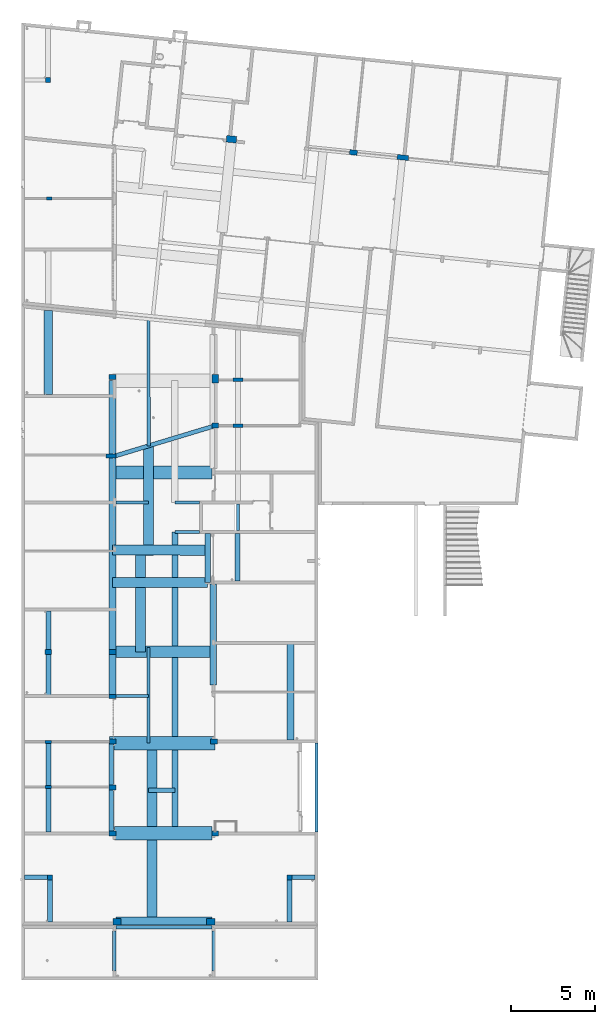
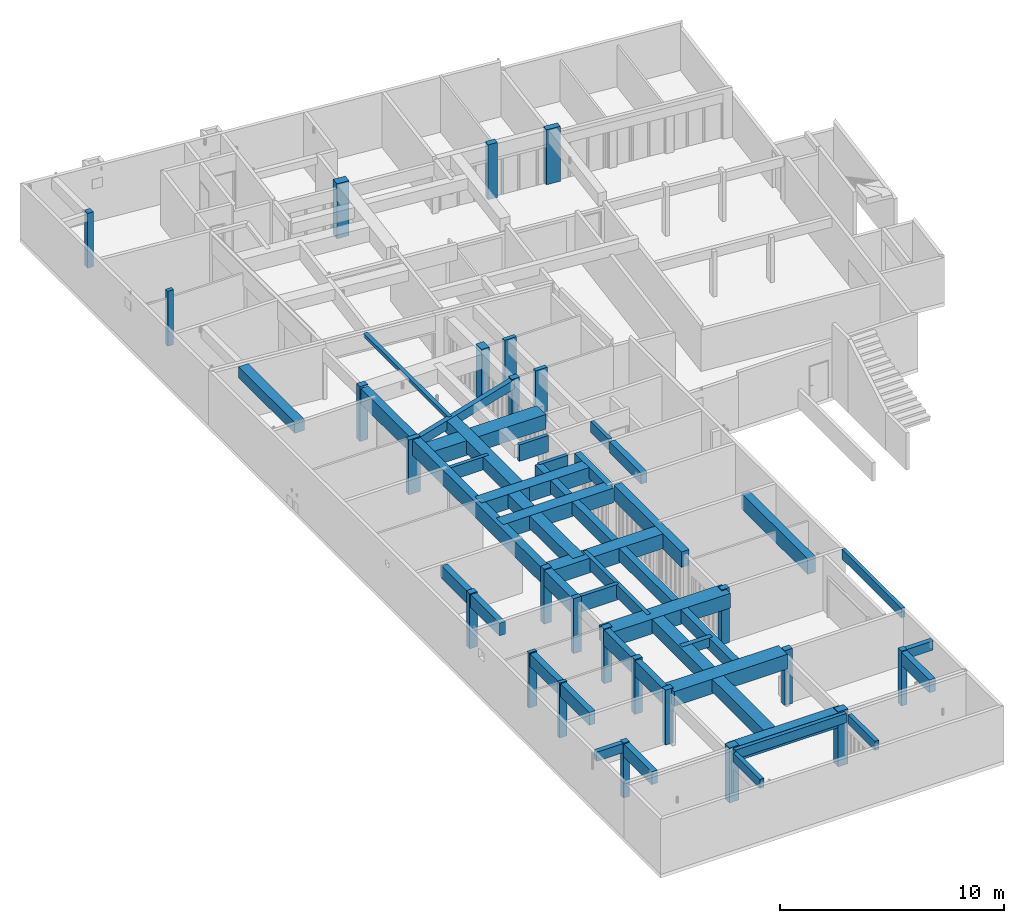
# One storey, part 1 of 41: 37 beams, 25 columns.
"""IFC2X3 building model written with IfcOpenShell, lengths in millimetres."""

from ifc_helpers import new_model, entity, si_unit, converted_unit, derived_unit, money_unit, direction, frame, frame_2d, origin_with_axes, origin_2d_with_axis, place, context, subcontext, project, spatial, rectangle, extrude, material, type_object, element, save


model = new_model("IFC2X3")

# Units and contexts
model_context = context("Model", 3, precision=0.01, world=origin_with_axes(), true_north=direction((0.0, 1.0)))
body_context = subcontext(model_context, "Body", "Model", "MODEL_VIEW")
ifc_project = project(units=[si_unit("LENGTHUNIT", "METRE", prefix="MILLI"), si_unit("AREAUNIT", "SQUARE_METRE"), si_unit("VOLUMEUNIT", "CUBIC_METRE"), converted_unit("PLANEANGLEUNIT", "DEGREE", entity("IfcPlaneAngleMeasure", 0.0174532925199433), si_unit("PLANEANGLEUNIT", "RADIAN"), dimensions=[0, 0, 0, 0, 0, 0, 0]), money_unit("USD"), converted_unit("TIMEUNIT", "Year", entity("IfcTimeMeasure", 31557600.0), si_unit("TIMEUNIT", "SECOND"), dimensions=[0, 0, 1, 0, 0, 0, 0]), si_unit("MASSUNIT", "GRAM", prefix="KILO"), si_unit("THERMODYNAMICTEMPERATUREUNIT", "DEGREE_CELSIUS"), si_unit("LUMINOUSINTENSITYUNIT", "LUMEN"), si_unit("ENERGYUNIT", "JOULE", prefix="MEGA"), derived_unit("THERMALCONDUCTANCEUNIT", [(si_unit("POWERUNIT", "WATT"), 1), (si_unit("LENGTHUNIT", "METRE"), -1), (si_unit("THERMODYNAMICTEMPERATUREUNIT", "KELVIN"), -1)]), derived_unit("SPECIFICHEATCAPACITYUNIT", [(si_unit("ENERGYUNIT", "JOULE"), 1), (si_unit("MASSUNIT", "GRAM", prefix="KILO"), -1), (si_unit("THERMODYNAMICTEMPERATUREUNIT", "KELVIN"), -1)]), derived_unit("MASSDENSITYUNIT", [(si_unit("MASSUNIT", "GRAM", prefix="KILO"), 1), (si_unit("VOLUMEUNIT", "CUBIC_METRE"), -1)])], contexts=[model_context])

# Site, building, storey
site_placement = place(None, origin_with_axes())
site = spatial("IfcSite", under=ifc_project, at=site_placement, Name="Site", CompositionType="ELEMENT")
building_placement = place(site_placement, origin_with_axes())
building = spatial("IfcBuilding", under=site, at=building_placement, Name="Bâtiment", CompositionType="ELEMENT")
storey_placement = place(building_placement, origin_with_axes())
storey = spatial("IfcBuildingStorey", under=building, at=storey_placement, Name="sousol", CompositionType="ELEMENT", Elevation=0.0)

# Columns
ifc_material_1 = material(Name="Briques 314940890")
column_type_1 = type_object("IfcColumnType", Name="Briques 314940890 400 x 300", PredefinedType="NOTDEFINED")
column_1_placement = place(storey_placement, frame((2222064.23334483, -625032.7456712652, 0.0), z_axis=(0.0, 0.0, 1.0), x_axis=(1.0, 0.0, 0.0)))
element("IfcColumn", 1, at=column_1_placement, inside=storey, type_object=column_type_1, material=ifc_material_1, Name="Pilier-021", context=body_context, shape_type="SweptSolid", body=[
    extrude(rectangle(XDim=400.0, YDim=300.0, at=origin_2d_with_axis()), origin_with_axes(), (0.0, 0.0, 1.0), 3000.0),
])
column_2_placement = place(storey_placement, frame((2222064.23334483, -649588.1723563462, 0.0), z_axis=(0.0, 0.0, 1.0), x_axis=(1.0, 0.0, 0.0)))
element("IfcColumn", 2, at=column_2_placement, inside=storey, type_object=column_type_1, material=ifc_material_1, Name="Pilier-021", context=body_context, shape_type="SweptSolid", body=[
    extrude(rectangle(XDim=400.0, YDim=300.0, at=origin_2d_with_axis()), frame((0.0, 0.0, 0.0), z_axis=(0.0, 0.0, -1.0), x_axis=(-1.0, 0.0, 0.0)), (0.0, 0.0, -1.0), 3000.0),
])
for number, where, z_axis, x_axis, name in (
    (3, (2228214.233344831, -627942.7456712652, 0.0), (0.0, 0.0, 1.0), (1.0, 0.0, 0.0), "Pilier-021"),
    (4, (2228134.757189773, -646830.1429314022, 0.0), (0.0, 0.0, 1.0), (1.0, 0.0, 0.0), "Pilier-021"),
):
    element("IfcColumn", number, at=place(storey_placement, frame(where, z_axis=z_axis, x_axis=x_axis)), inside=storey, type_object=column_type_1, material=ifc_material_1, Name=name, context=body_context, shape_type="SweptSolid", body=[
        extrude(rectangle(XDim=400.0, YDim=300.0, at=origin_2d_with_axis()), origin_with_axes(), (0.0, 0.0, 1.0), 3000.0),
    ])
column_3_placement = place(storey_placement, frame((2222064.23334483, -652340.5534607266, 0.0), z_axis=(0.0, 0.0, 1.0), x_axis=(1.0, 0.0, 0.0)))
element("IfcColumn", 5, at=column_3_placement, inside=storey, type_object=column_type_1, material=ifc_material_1, Name="Pilier-021", context=body_context, shape_type="SweptSolid", body=[
    extrude(rectangle(XDim=400.0, YDim=300.0, at=origin_2d_with_axis()), frame((0.0, 0.0, 0.0), z_axis=(0.0, 0.0, -1.0), x_axis=(-1.0, 0.0, 0.0)), (0.0, 0.0, -1.0), 3000.0),
])
column_4_placement = place(storey_placement, frame((2228214.233329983, -652340.5534607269, 0.0), z_axis=(0.0, 0.0, 1.0), x_axis=(1.0, 0.0, 0.0)))
element("IfcColumn", 6, at=column_4_placement, inside=storey, type_object=column_type_1, material=ifc_material_1, Name="Pilier-021", context=body_context, shape_type="SweptSolid", body=[
    extrude(rectangle(XDim=400.0, YDim=300.0, at=origin_2d_with_axis()), origin_with_axes(), (0.0, 0.0, 1.0), 3000.0),
])
column_5_placement = place(storey_placement, frame((2222075.995055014, -646830.1429314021, 0.0), z_axis=(0.0, 0.0, 1.0), x_axis=(1.0, 0.0, 0.0)))
element("IfcColumn", 7, at=column_5_placement, inside=storey, type_object=column_type_1, material=ifc_material_1, Name="Pilier-021", context=body_context, shape_type="SweptSolid", body=[
    extrude(rectangle(XDim=400.0, YDim=300.0, at=origin_2d_with_axis()), frame((0.0, 0.0, 0.0), z_axis=(0.0, 0.0, -1.0), x_axis=(-1.0, 0.0, 0.0)), (0.0, 0.0, -1.0), 3000.0),
])
for number, where, z_axis, x_axis, name in (
    (8, (2218226.199228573, -641468.6041764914, 0.0), (0.0, 0.0, 1.0), (1.0, 0.0, 0.0), "Pilier-021"),
    (9, (2222064.233344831, -641468.6041764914, 0.0), (0.0, 0.0, 1.0), (1.0, 0.0, 0.0), "Pilier-021"),
):
    element("IfcColumn", number, at=place(storey_placement, frame(where, z_axis=z_axis, x_axis=x_axis)), inside=storey, type_object=column_type_1, material=ifc_material_1, Name=name, context=body_context, shape_type="SweptSolid", body=[
        extrude(rectangle(XDim=400.0, YDim=300.0, at=origin_2d_with_axis()), origin_with_axes(), (0.0, 0.0, 1.0), 3000.0),
    ])
column_type_2 = type_object("IfcColumnType", Name="Briques 314940890 680 x 300", PredefinedType="NOTDEFINED")
column_6_placement = place(storey_placement, frame((2239435.25860121, -611899.5777297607, 0.0), z_axis=(0.0, 0.0, 1.0), x_axis=(0.9948759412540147, -0.101103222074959, 0.0)))
element("IfcColumn", 10, at=column_6_placement, inside=storey, type_object=column_type_2, material=ifc_material_1, Name="Pilier-021", context=body_context, shape_type="SweptSolid", body=[
    extrude(rectangle(XDim=680.0, YDim=300.0, at=origin_2d_with_axis()), origin_with_axes(), (0.0, 0.0, 1.0), 3000.0),
])
column_type_3 = type_object("IfcColumnType", Name="Briques 314940890 600 x 400", PredefinedType="NOTDEFINED")
column_7_placement = place(storey_placement, frame((2229184.076988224, -610807.5546481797, 0.0), z_axis=(0.0, 0.0, 1.0), x_axis=(0.9948759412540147, -0.101103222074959, 0.0)))
element("IfcColumn", 11, at=column_7_placement, inside=storey, type_object=column_type_3, material=ifc_material_1, Name="Pilier-021", context=body_context, shape_type="SweptSolid", body=[
    extrude(rectangle(XDim=600.0, YDim=400.0, at=origin_2d_with_axis()), origin_with_axes(), (0.0, 0.0, 1.0), 3000.0),
])
column_type_4 = type_object("IfcColumnType", Name="Briques 314940890 460 x 300", PredefinedType="NOTDEFINED")
column_8_placement = place(storey_placement, frame((2236480.477055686, -611599.3011601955, 0.0), z_axis=(0.0, 0.0, 1.0), x_axis=(0.9948759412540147, -0.101103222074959, 0.0)))
element("IfcColumn", 12, at=column_8_placement, inside=storey, type_object=column_type_4, material=ifc_material_1, Name="Pilier-021", context=body_context, shape_type="SweptSolid", body=[
    extrude(rectangle(XDim=460.0, YDim=300.0, at=origin_2d_with_axis()), origin_with_axes(), (0.0, 0.0, 1.0), 3000.0),
])
column_type_5 = type_object("IfcColumnType", Name="Briques 314940890 600 x 200", PredefinedType="NOTDEFINED")
for number, where, z_axis, x_axis, name in (
    (13, (2229570.307562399, -625193.4880064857, 0.0), (0.0, 0.0, 1.0), (1.0, 0.0, 0.0), "Pilier-021"),
    (14, (2229570.307562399, -627946.6771579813, 0.0), (0.0, 0.0, 1.0), (1.0, 0.0, 0.0), "Pilier-021"),
):
    element("IfcColumn", number, at=place(storey_placement, frame(where, z_axis=z_axis, x_axis=x_axis)), inside=storey, type_object=column_type_5, material=ifc_material_1, Name=name, context=body_context, shape_type="SweptSolid", body=[
        extrude(rectangle(XDim=600.0, YDim=200.0, at=origin_2d_with_axis()), origin_with_axes(), (0.0, 0.0, 1.0), 3000.0),
    ])
column_type_6 = type_object("IfcColumnType", Name="Briques 314940890 300 x 200", PredefinedType="NOTDEFINED")
column_9_placement = place(storey_placement, frame((2218284.233344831, -614352.8894231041, 0.0), z_axis=(0.0, 0.0, 1.0), x_axis=(1.0, 0.0, 0.0)))
element("IfcColumn", 15, at=column_9_placement, inside=storey, type_object=column_type_6, material=ifc_material_1, Name="Pilier-021", context=body_context, shape_type="SweptSolid", body=[
    extrude(rectangle(XDim=300.0, YDim=200.0, at=origin_2d_with_axis()), origin_with_axes(), (0.0, 0.0, 1.0), 3000.0),
])
column_type_7 = type_object("IfcColumnType", Name="Briques 314940890 400 x 510", PredefinedType="NOTDEFINED")
column_10_placement = place(storey_placement, frame((2228214.233344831, -625137.7456712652, 0.0), z_axis=(0.0, 0.0, 1.0), x_axis=(1.0, 0.0, 0.0)))
element("IfcColumn", 16, at=column_10_placement, inside=storey, type_object=column_type_7, material=ifc_material_1, Name="Pilier-021", context=body_context, shape_type="SweptSolid", body=[
    extrude(rectangle(XDim=400.0, YDim=510.0, at=origin_2d_with_axis()), origin_with_axes(), (0.0, 0.0, 1.0), 3000.0),
])
column_type_8 = type_object("IfcColumnType", Name="Briques 314940890 400 x 250", PredefinedType="NOTDEFINED")
column_11_placement = place(storey_placement, frame((2222064.23334483, -644141.376487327, 0.0), z_axis=(0.0, 0.0, 1.0), x_axis=(1.0, 0.0, 0.0)))
element("IfcColumn", 17, at=column_11_placement, inside=storey, type_object=column_type_8, material=ifc_material_1, Name="Pilier-021", context=body_context, shape_type="SweptSolid", body=[
    extrude(rectangle(XDim=400.0, YDim=250.0, at=origin_2d_with_axis()), frame((0.0, 0.0, 0.0), z_axis=(0.0, 0.0, -1.0), x_axis=(-1.0, 0.0, 0.0)), (0.0, 0.0, -1.0), 3000.0),
])
column_type_9 = type_object("IfcColumnType", Name="Briques 314940890 500 x 400", PredefinedType="NOTDEFINED")
column_12_placement = place(storey_placement, frame((2222334.305650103, -657618.3230769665, 0.0), z_axis=(0.0, 0.0, 1.0), x_axis=(1.0, 0.0, 0.0)))
element("IfcColumn", 18, at=column_12_placement, inside=storey, type_object=column_type_9, material=ifc_material_1, Name="Pilier-021", context=body_context, shape_type="SweptSolid", body=[
    extrude(rectangle(XDim=500.0, YDim=400.0, at=origin_2d_with_axis()), frame((0.0, 0.0, 0.0), z_axis=(0.0, 0.0, -1.0), x_axis=(-1.0, 0.0, 0.0)), (0.0, 0.0, -1.0), 3000.0),
])
column_13_placement = place(storey_placement, frame((2227944.233329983, -657618.3230769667, 0.0), z_axis=(0.0, 0.0, 1.0), x_axis=(1.0, 0.0, 0.0)))
element("IfcColumn", 19, at=column_13_placement, inside=storey, type_object=column_type_9, material=ifc_material_1, Name="Pilier-021", context=body_context, shape_type="SweptSolid", body=[
    extrude(rectangle(XDim=500.0, YDim=400.0, at=origin_2d_with_axis()), origin_with_axes(), (0.0, 0.0, 1.0), 3000.0),
])
column_type_10 = type_object("IfcColumnType", Name="Briques 314940890 600 x 250", PredefinedType="NOTDEFINED")
column_14_placement = place(storey_placement, frame((2221964.233344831, -629749.4502307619, 0.0), z_axis=(0.0, 0.0, 1.0), x_axis=(1.0, 0.0, 0.0)))
element("IfcColumn", 20, at=column_14_placement, inside=storey, type_object=column_type_10, material=ifc_material_1, Name="Pilier-021", context=body_context, shape_type="SweptSolid", body=[
    extrude(rectangle(XDim=600.0, YDim=250.0, at=origin_2d_with_axis()), frame((0.0, 0.0, 0.0), z_axis=(0.0, 0.0, -1.0), x_axis=(-1.0, 0.0, 0.0)), (0.0, 0.0, -1.0), 3000.0),
])
column_type_11 = type_object("IfcColumnType", Name="Briques 314940890 300 x 300", PredefinedType="NOTDEFINED")
column_15_placement = place(storey_placement, frame((2232656.658098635, -654976.5243656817, 0.0), z_axis=(0.0, 0.0, 1.0), x_axis=(1.0, 0.0, 0.0)))
element("IfcColumn", 21, at=column_15_placement, inside=storey, type_object=column_type_11, material=ifc_material_1, Name="Pilier-021", context=body_context, shape_type="SweptSolid", body=[
    extrude(rectangle(XDim=300.0, YDim=300.0, at=origin_2d_with_axis()), frame((0.0, 0.0, 0.0), z_axis=(0.0, 0.0, -1.0), x_axis=(-1.0, 0.0, 0.0)), (0.0, 0.0, -1.0), 3000.0),
])
for number, where, z_axis, x_axis, name in (
    (22, (2218327.823438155, -654976.5243656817, 0.0), (0.0, 0.0, 1.0), (1.0, 0.0, 0.0), "Pilier-021"),
    (23, (2218220.465206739, -607254.8624668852, 0.0), (0.0, 0.0, 1.0), (1.0, 0.0, 0.0), "Pilier-021"),
):
    element("IfcColumn", number, at=place(storey_placement, frame(where, z_axis=z_axis, x_axis=x_axis)), inside=storey, type_object=column_type_11, material=ifc_material_1, Name=name, context=body_context, shape_type="SweptSolid", body=[
        extrude(rectangle(XDim=300.0, YDim=300.0, at=origin_2d_with_axis()), origin_with_axes(), (0.0, 0.0, 1.0), 3000.0),
    ])
column_type_12 = type_object("IfcColumnType", Name="Briques 314940890 400 x 180", PredefinedType="NOTDEFINED")
for number, where, z_axis, x_axis, name in (
    (24, (2218226.199228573, -649552.9042430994, 0.0), (0.0, 0.0, 1.0), (1.0, 0.0, 0.0), "Pilier-021"),
    (25, (2218226.199228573, -646849.2671070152, 0.0), (0.0, 0.0, 1.0), (1.0, 0.0, 0.0), "Pilier-021"),
):
    element("IfcColumn", number, at=place(storey_placement, frame(where, z_axis=z_axis, x_axis=x_axis)), inside=storey, type_object=column_type_12, material=ifc_material_1, Name=name, context=body_context, shape_type="SweptSolid", body=[
        extrude(rectangle(XDim=400.0, YDim=180.0, at=origin_2d_with_axis()), origin_with_axes(), (0.0, 0.0, 1.0), 3000.0),
    ])

# Beams
ifc_material_2 = material(Name="Bloc béton 3409626266")
beam_type_1 = type_object("IfcBeamType", Name="Bloc béton 3409626266 180 x 523", PredefinedType="NOTDEFINED")
beam_1_placement = place(storey_placement, frame((2234266.641343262, -652232.6820620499, 3000.0), z_axis=(0.0, 0.0, 1.0), x_axis=(1.0, 0.0, 0.0)))
element("IfcBeam", 26, at=beam_1_placement, inside=storey, type_object=beam_type_1, material=ifc_material_2, Name="Poutre-012", context=body_context, shape_type="SweptSolid", body=[
    extrude(rectangle(XDim=523.1198403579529, YDim=180.0, at=frame_2d((-261.5599201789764, 0.0), x_axis=(1.0, 0.0))), frame((0.0, 0.0, 0.0), z_axis=(0.0, 1.0, 0.0), x_axis=(0.0, 0.0, 1.0)), (0.0, 0.0, 1.0), 5313.920350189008),
])
ifc_material_3 = material(Name="Parpaing 2676271321")
beam_type_2 = type_object("IfcBeamType", Name="Parpaing 2676271321 600 x 700", PredefinedType="NOTDEFINED")
beam_2_placement = place(storey_placement, frame((2224432.390550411, -646530.1429314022, 2950.0), z_axis=(0.0, 0.0, 1.0), x_axis=(-1.0, 0.0, 0.0)))
element("IfcBeam", 27, at=beam_2_placement, inside=storey, type_object=beam_type_2, material=ifc_material_3, Name="Poutre-012", context=body_context, shape_type="SweptSolid", body=[
    extrude(rectangle(XDim=700.0, YDim=600.0, at=frame_2d((-350.0, 0.0), x_axis=(1.0, 0.0))), frame((0.0, 0.0, 0.0), z_axis=(0.0, 1.0, 0.0), x_axis=(0.0, 0.0, 1.0)), (0.0, 0.0, 1.0), 11038.18014556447),
])
beam_3_placement = place(storey_placement, frame((2223732.400116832, -635389.2303549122, 2950.0), z_axis=(0.0, 0.0, 1.0), x_axis=(-1.0, 0.0, 0.0)))
element("IfcBeam", 28, at=beam_3_placement, inside=storey, type_object=beam_type_2, material=ifc_material_3, Name="Poutre-012", context=body_context, shape_type="SweptSolid", body=[
    extrude(rectangle(XDim=700.0, YDim=600.0, at=frame_2d((-350.0, 0.0), x_axis=(1.0, 0.0))), frame((0.0, 0.0, 0.0), z_axis=(0.0, 1.0, 0.0), x_axis=(0.0, 0.0, 1.0)), (0.0, 0.0, 1.0), 6079.373821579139),
])
beam_4_placement = place(storey_placement, frame((2224227.986352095, -635694.1074759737, 2950.0), z_axis=(0.0, 0.0, 1.0), x_axis=(1.0, 0.0, 0.0)))
element("IfcBeam", 29, at=beam_4_placement, inside=storey, type_object=beam_type_2, material=ifc_material_3, Name="Poutre-012", context=body_context, shape_type="SweptSolid", body=[
    extrude(rectangle(XDim=700.0, YDim=600.0, at=frame_2d((-350.0, 0.0), x_axis=(1.0, 0.0))), frame((0.0, 0.0, 0.0), z_axis=(0.0, 1.0, 0.0), x_axis=(0.0, 0.0, 1.0)), (0.0, 0.0, 1.0), 6548.577696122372),
])
beam_type_3 = type_object("IfcBeamType", Name="Bloc béton 3409626266 200 x 700", PredefinedType="NOTDEFINED")
beam_5_placement = place(storey_placement, frame((2224220.873214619, -641202.9396892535, 2950.0), z_axis=(0.0, 0.0, 1.0), x_axis=(-1.0, 0.0, 0.0)))
element("IfcBeam", 30, at=beam_5_placement, inside=storey, type_object=beam_type_3, material=ifc_material_2, Name="Poutre-012", context=body_context, shape_type="SweptSolid", body=[
    extrude(rectangle(XDim=700.0, YDim=200.0, at=frame_2d((-350.0, 0.0), x_axis=(1.0, 0.0))), frame((0.0, 0.0, 0.0), z_axis=(0.0, 1.0, 0.0), x_axis=(0.0, 0.0, 1.0)), (0.0, 0.0, 1.0), 5727.203242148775),
])
beam_type_4 = type_object("IfcBeamType", Name="Bloc béton 3409626266 300 x 700", PredefinedType="NOTDEFINED")
beam_6_placement = place(storey_placement, frame((2218226.199228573, -646939.2671070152, 2950.0), z_axis=(0.0, 0.0, 1.0), x_axis=(-0.9999997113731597, -0.0007597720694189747, 0.0)))
element("IfcBeam", 31, at=beam_6_placement, inside=storey, type_object=beam_type_4, material=ifc_material_2, Name="Poutre-012", context=body_context, shape_type="SweptSolid", body=[
    extrude(rectangle(XDim=700.0, YDim=300.0, at=frame_2d((-350.0, 0.0), x_axis=(1.0, 0.0))), frame((0.0, 0.0, 0.0), z_axis=(0.0, 1.0, 0.0), x_axis=(0.0, 0.0, 1.0)), (0.0, 0.0, 1.0), 5293.416482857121),
])
beam_7_placement = place(storey_placement, frame((2218230.221018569, -639016.8076992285, 2950.0), z_axis=(0.0, 0.0, 1.0), x_axis=(-1.0, 0.0, 0.0)))
element("IfcBeam", 32, at=beam_7_placement, inside=storey, type_object=beam_type_4, material=ifc_material_2, Name="Poutre-012", context=body_context, shape_type="SweptSolid", body=[
    extrude(rectangle(XDim=700.0, YDim=300.0, at=frame_2d((-350.0, 0.0), x_axis=(1.0, 0.0))), frame((0.0, 0.0, 0.0), z_axis=(0.0, 1.0, 0.0), x_axis=(0.0, 0.0, 1.0)), (0.0, 0.0, 1.0), 5179.568788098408),
])
beam_type_5 = type_object("IfcBeamType", Name="Bloc béton 3409626266 200 x 200", PredefinedType="NOTDEFINED")
beam_8_placement = place(storey_placement, frame((2224220.873214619, -621570.9108242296, 2950.0), z_axis=(0.0, 0.0, 1.0), x_axis=(-0.9999995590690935, -0.0009390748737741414, 0.0)))
element("IfcBeam", 33, at=beam_8_placement, inside=storey, type_object=beam_type_5, material=ifc_material_2, Name="Poutre-012", context=body_context, shape_type="SweptSolid", body=[
    extrude(rectangle(XDim=200.0, YDim=200.0, at=frame_2d((-100.0, 0.0), x_axis=(1.0, 0.0))), frame((0.0, 0.0, 0.0), z_axis=(0.0, 1.0, 0.0), x_axis=(0.0, 0.0, 1.0)), (0.0, 0.0, 1.0), 7574.622295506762),
])
beam_type_6 = type_object("IfcBeamType", Name="Bloc béton 3409626266 180 x 700", PredefinedType="NOTDEFINED")
beam_9_placement = place(storey_placement, frame((2222264.233344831, -632523.5146792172, 2950.0), z_axis=(0.0, 0.0, 1.0), x_axis=(0.0, -1.0, 0.0)))
element("IfcBeam", 34, at=beam_9_placement, inside=storey, type_object=beam_type_6, material=ifc_material_2, Name="Poutre-012", context=body_context, shape_type="SweptSolid", body=[
    extrude(rectangle(XDim=700.0, YDim=180.0, at=frame_2d((-350.0, 0.0), x_axis=(1.0, 0.0))), frame((0.0, 0.0, 0.0), z_axis=(0.0, 1.0, 0.0), x_axis=(0.0, 0.0, 1.0)), (0.0, 0.0, 1.0), 1963.753007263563),
])
beam_10_placement = place(storey_placement, frame((2225803.475733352, -634303.514679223, 2950.0), z_axis=(0.0, 0.0, 1.0), x_axis=(0.0, -1.0, 0.0)))
element("IfcBeam", 35, at=beam_10_placement, inside=storey, type_object=beam_type_6, material=ifc_material_2, Name="Poutre-012", context=body_context, shape_type="SweptSolid", body=[
    extrude(rectangle(XDim=700.0, YDim=180.0, at=frame_2d((-350.0, 0.0), x_axis=(1.0, 0.0))), frame((0.0, 0.0, 0.0), z_axis=(0.0, 1.0, 0.0), x_axis=(0.0, 0.0, 1.0)), (0.0, 0.0, 1.0), 1480.277473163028),
])
beam_type_7 = type_object("IfcBeamType", Name="Parpaing 2676271321 600 x 800", PredefinedType="NOTDEFINED")
beam_11_placement = place(storey_placement, frame((2222063.140728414, -635387.6036293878, 2950.0), z_axis=(0.0, 0.0, 1.0), x_axis=(-0.0009745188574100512, -0.9999995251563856, 0.0)))
element("IfcBeam", 36, at=beam_11_placement, inside=storey, type_object=beam_type_7, material=ifc_material_3, Name="Poutre-012", context=body_context, shape_type="SweptSolid", body=[
    extrude(rectangle(XDim=800.0, YDim=600.0, at=frame_2d((-400.0, 0.0), x_axis=(1.0, 0.0))), frame((0.0, 0.0, 0.0), z_axis=(0.0, 1.0, 0.0), x_axis=(0.0, 0.0, 1.0)), (0.0, 0.0, 1.0), 5701.095322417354),
])
beam_12_placement = place(storey_placement, frame((2222064.233344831, -637323.3438947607, 2950.0), z_axis=(0.0, 0.0, 1.0), x_axis=(0.0, -1.0, 0.0)))
element("IfcBeam", 37, at=beam_12_placement, inside=storey, type_object=beam_type_7, material=ifc_material_3, Name="Poutre-012", context=body_context, shape_type="SweptSolid", body=[
    extrude(rectangle(XDim=800.0, YDim=600.0, at=frame_2d((-400.0, 0.0), x_axis=(1.0, 0.0))), frame((0.0, 0.0, 0.0), z_axis=(0.0, 1.0, 0.0), x_axis=(0.0, 0.0, 1.0)), (0.0, 0.0, 1.0), 5699.999998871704),
])
beam_type_8 = type_object("IfcBeamType", Name="Parpaing 2676271321 300 x 600", PredefinedType="NOTDEFINED")
beam_13_placement = place(storey_placement, frame((2227764.233343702, -637323.3438947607, 2950.0), z_axis=(0.0, 0.0, 1.0), x_axis=(1.0, 0.0, 0.0)))
element("IfcBeam", 38, at=beam_13_placement, inside=storey, type_object=beam_type_8, material=ifc_material_3, Name="Poutre-012", context=body_context, shape_type="SweptSolid", body=[
    extrude(rectangle(XDim=600.0, YDim=300.0, at=frame_2d((-300.0, 0.0), x_axis=(1.0, 0.0))), frame((0.0, 0.0, 0.0), z_axis=(0.0, 1.0, 0.0), x_axis=(0.0, 0.0, 1.0)), (0.0, 0.0, 1.0), 2929.829215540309),
])
beam_14_placement = place(storey_placement, frame((2229557.46005804, -637233.3438947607, 2950.0), z_axis=(0.0, 0.0, 1.0), x_axis=(1.0, 0.0, 0.0)))
element("IfcBeam", 39, at=beam_14_placement, inside=storey, type_object=beam_type_8, material=ifc_material_3, Name="Poutre-012", context=body_context, shape_type="SweptSolid", body=[
    extrude(rectangle(XDim=600.0, YDim=300.0, at=frame_2d((-300.0, 0.0), x_axis=(1.0, 0.0))), frame((0.0, 0.0, 0.0), z_axis=(0.0, 1.0, 0.0), x_axis=(0.0, 0.0, 1.0)), (0.0, 0.0, 1.0), 2839.829215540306),
])
beam_type_9 = type_object("IfcBeamType", Name="Bloc béton 3409626266 400 x 850", PredefinedType="NOTDEFINED")
beam_15_placement = place(storey_placement, frame((2228094.233340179, -643455.3255384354, 2950.0), z_axis=(0.0, 0.0, 1.0), x_axis=(1.0, 0.0, 0.0)))
element("IfcBeam", 40, at=beam_15_placement, inside=storey, type_object=beam_type_9, material=ifc_material_2, Name="Poutre-012", context=body_context, shape_type="SweptSolid", body=[
    extrude(rectangle(XDim=850.0, YDim=400.0, at=frame_2d((-425.0, 0.0), x_axis=(1.0, 0.0))), frame((0.0, 0.0, 0.0), z_axis=(0.0, 1.0, 0.0), x_axis=(0.0, 0.0, 1.0)), (0.0, 0.0, 1.0), 6041.981643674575),
])
beam_type_10 = type_object("IfcBeamType", Name="Parpaing 2676271321 700 x 800", PredefinedType="NOTDEFINED")
beam_16_placement = place(storey_placement, frame((2228094.233340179, -641468.6041764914, 2950.0), z_axis=(0.0, 0.0, 1.0), x_axis=(0.0, 1.0, 0.0)))
element("IfcBeam", 41, at=beam_16_placement, inside=storey, type_object=beam_type_10, material=ifc_material_3, Name="Poutre-012", context=body_context, shape_type="SweptSolid", body=[
    extrude(rectangle(XDim=800.0, YDim=700.0, at=frame_2d((-400.0, 0.0), x_axis=(1.0, 0.0))), frame((0.0, 0.0, 0.0), z_axis=(0.0, 1.0, 0.0), x_axis=(0.0, 0.0, 1.0)), (0.0, 0.0, 1.0), 5829.999995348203),
])
beam_type_11 = type_object("IfcBeamType", Name="Bloc béton 3409626266 250 x 500", PredefinedType="NOTDEFINED")
beam_17_placement = place(storey_placement, frame((2225803.475733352, -649752.6101112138, 2950.0), z_axis=(0.0, 0.0, 1.0), x_axis=(0.0, 1.0, 0.0)))
element("IfcBeam", 42, at=beam_17_placement, inside=storey, type_object=beam_type_11, material=ifc_material_2, Name="Poutre-012", context=body_context, shape_type="SweptSolid", body=[
    extrude(rectangle(XDim=500.0, YDim=250.0, at=frame_2d((-250.0, 0.0), x_axis=(1.0, 0.0))), frame((0.0, 0.0, 0.0), z_axis=(0.0, 1.0, 0.0), x_axis=(0.0, 0.0, 1.0)), (0.0, 0.0, 1.0), 1581.665698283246),
])
beam_18_placement = place(storey_placement, frame((2218327.823438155, -654951.5243656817, 2950.0), z_axis=(0.0, 0.0, 1.0), x_axis=(0.0, 1.0, 0.0)))
element("IfcBeam", 43, at=beam_18_placement, inside=storey, type_object=beam_type_11, material=ifc_material_2, Name="Poutre-012", context=body_context, shape_type="SweptSolid", body=[
    extrude(rectangle(XDim=500.0, YDim=250.0, at=frame_2d((-250.0, 0.0), x_axis=(1.0, 0.0))), frame((0.0, 0.0, 0.0), z_axis=(0.0, 1.0, 0.0), x_axis=(0.0, 0.0, 1.0)), (0.0, 0.0, 1.0), 1513.59009332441),
])
beam_19_placement = place(storey_placement, frame((2232806.658098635, -654951.5243656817, 2950.0), z_axis=(0.0, 0.0, 1.0), x_axis=(0.0, -1.0, 0.0)))
element("IfcBeam", 44, at=beam_19_placement, inside=storey, type_object=beam_type_11, material=ifc_material_2, Name="Poutre-012", context=body_context, shape_type="SweptSolid", body=[
    extrude(rectangle(XDim=500.0, YDim=250.0, at=frame_2d((-250.0, 0.0), x_axis=(1.0, 0.0))), frame((0.0, 0.0, 0.0), z_axis=(0.0, 1.0, 0.0), x_axis=(0.0, 0.0, 1.0)), (0.0, 0.0, 1.0), 1369.983244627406),
])
beam_type_12 = type_object("IfcBeamType", Name="Parpaing 2676271321 350 x 700", PredefinedType="NOTDEFINED")
beam_20_placement = place(storey_placement, frame((2225803.475733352, -652412.6820620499, 2950.0), z_axis=(0.0, 0.0, 1.0), x_axis=(1.0, 0.0, 0.0)))
element("IfcBeam", 45, at=beam_20_placement, inside=storey, type_object=beam_type_12, material=ifc_material_3, Name="Poutre-012", context=body_context, shape_type="SweptSolid", body=[
    extrude(rectangle(XDim=700.0, YDim=350.0, at=frame_2d((-350.0, 0.0), x_axis=(1.0, 0.0))), frame((0.0, 0.0, 0.0), z_axis=(0.0, 1.0, 0.0), x_axis=(0.0, 0.0, 1.0)), (0.0, 0.0, 1.0), 18109.16738282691),
])
beam_type_13 = type_object("IfcBeamType", Name="Parpaing 2676271321 800 x 800", PredefinedType="NOTDEFINED")
beam_21_placement = place(storey_placement, frame((2228014.233329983, -652323.3050478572, 2950.0), z_axis=(0.0, 0.0, 1.0), x_axis=(0.0, 1.0, 0.0)))
element("IfcBeam", 46, at=beam_21_placement, inside=storey, type_object=beam_type_13, material=ifc_material_3, Name="Poutre-012", context=body_context, shape_type="SweptSolid", body=[
    extrude(rectangle(XDim=800.0, YDim=800.0, at=frame_2d((-400.0, 0.0), x_axis=(1.0, 0.0))), frame((0.0, 0.0, 0.0), z_axis=(0.0, 1.0, 0.0), x_axis=(0.0, 0.0, 1.0)), (0.0, 0.0, 1.0), 5838.238274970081),
])
beam_22_placement = place(storey_placement, frame((2222264.233344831, -630740.0512115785, 2950.0), z_axis=(0.0, 0.0, 1.0), x_axis=(0.0, -1.0, 0.0)))
element("IfcBeam", 47, at=beam_22_placement, inside=storey, type_object=beam_type_13, material=ifc_material_3, Name="Poutre-012", context=body_context, shape_type="SweptSolid", body=[
    extrude(rectangle(XDim=800.0, YDim=800.0, at=frame_2d((-400.0, 0.0), x_axis=(1.0, 0.0))), frame((0.0, 0.0, 0.0), z_axis=(0.0, 1.0, 0.0), x_axis=(0.0, 0.0, 1.0)), (0.0, 0.0, 1.0), 5750.0),
])
beam_23_placement = place(storey_placement, frame((2228194.233338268, -646930.1429314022, 2950.0), z_axis=(0.0, 0.0, 1.0), x_axis=(0.0, 1.0, 0.0)))
element("IfcBeam", 48, at=beam_23_placement, inside=storey, type_object=beam_type_13, material=ifc_material_3, Name="Poutre-012", context=body_context, shape_type="SweptSolid", body=[
    extrude(rectangle(XDim=800.0, YDim=800.0, at=frame_2d((-400.0, 0.0), x_axis=(1.0, 0.0))), frame((0.0, 0.0, 0.0), z_axis=(0.0, 1.0, 0.0), x_axis=(0.0, 0.0, 1.0)), (0.0, 0.0, 1.0), 6318.238283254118),
])
beam_type_14 = type_object("IfcBeamType", Name="Bloc béton 3409626266 180 x 900", PredefinedType="NOTDEFINED")
beam_24_placement = place(storey_placement, frame((2225792.911452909, -632523.5146792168, 2950.0), z_axis=(0.0, 0.0, 1.0), x_axis=(0.0, -1.0, 0.0)))
element("IfcBeam", 49, at=beam_24_placement, inside=storey, type_object=beam_type_14, material=ifc_material_2, Name="Poutre-012", context=body_context, shape_type="SweptSolid", body=[
    extrude(rectangle(XDim=900.0, YDim=180.0, at=frame_2d((-450.0, 0.0), x_axis=(1.0, 0.0))), frame((0.0, 0.0, 0.0), z_axis=(0.0, 1.0, 0.0), x_axis=(0.0, 0.0, 1.0)), (0.0, 0.0, 1.0), 1490.841753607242),
])
beam_type_15 = type_object("IfcBeamType", Name="Bloc béton 3409626266 200 x 500", PredefinedType="NOTDEFINED")
for number, where, z_axis, x_axis, name in (
    (50, (2228105.481581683, -660557.9753584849, 2950.0), (0.0, 0.0, 1.0), (1.0, 0.0, 0.0), "Poutre-012"),
    (51, (2222175.995055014, -660559.1517347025, 2950.0), (0.0, 0.0, 1.0), (1.0, 0.0, 0.0), "Poutre-012"),
):
    element("IfcBeam", number, at=place(storey_placement, frame(where, z_axis=z_axis, x_axis=x_axis)), inside=storey, type_object=beam_type_15, material=ifc_material_2, Name=name, context=body_context, shape_type="SweptSolid", body=[
        extrude(rectangle(XDim=500.0, YDim=200.0, at=frame_2d((-250.0, 0.0), x_axis=(1.0, 0.0))), frame((0.0, 0.0, 0.0), z_axis=(0.0, 1.0, 0.0), x_axis=(0.0, 0.0, 1.0)), (0.0, 0.0, 1.0), 2398.823623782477),
    ])
beam_type_16 = type_object("IfcBeamType", Name="Parpaing 2676271321 300 x 700", PredefinedType="NOTDEFINED")
for number, where, z_axis, x_axis, name in (
    (52, (2232656.658098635, -657638.3230769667, 2950.0), (0.0, 0.0, 1.0), (1.0, 0.0, 0.0), "Poutre-012"),
    (53, (2218327.823438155, -657638.3230769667, 2950.0), (0.0, 0.0, 1.0), (1.0, 0.0, 0.0), "Poutre-012"),
):
    element("IfcBeam", number, at=place(storey_placement, frame(where, z_axis=z_axis, x_axis=x_axis)), inside=storey, type_object=beam_type_16, material=ifc_material_3, Name=name, context=body_context, shape_type="SweptSolid", body=[
        extrude(rectangle(XDim=700.0, YDim=300.0, at=frame_2d((-350.0, 0.0), x_axis=(1.0, 0.0))), frame((0.0, 0.0, 0.0), z_axis=(0.0, 1.0, 0.0), x_axis=(0.0, 0.0, 1.0)), (0.0, 0.0, 1.0), 2686.798711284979),
    ])
beam_type_17 = type_object("IfcBeamType", Name="Parpaing 2676271321 500 x 800", PredefinedType="NOTDEFINED")
beam_25_placement = place(storey_placement, frame((2228014.233329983, -657568.3230769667, 2950.0), z_axis=(0.0, 0.0, 1.0), x_axis=(0.0, 1.0, 0.0)))
element("IfcBeam", 54, at=beam_25_placement, inside=storey, type_object=beam_type_17, material=ifc_material_3, Name="Poutre-012", context=body_context, shape_type="SweptSolid", body=[
    extrude(rectangle(XDim=800.0, YDim=500.0, at=frame_2d((-400.0, 0.0), x_axis=(1.0, 0.0))), frame((0.0, 0.0, 0.0), z_axis=(0.0, 1.0, 0.0), x_axis=(0.0, 0.0, 1.0)), (0.0, 0.0, 1.0), 5749.999985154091),
])
beam_type_18 = type_object("IfcBeamType", Name="Parpaing 2676271321 200 x 500", PredefinedType="NOTDEFINED")
beam_26_placement = place(storey_placement, frame((2228014.233329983, -657938.3230769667, 2950.0), z_axis=(0.0, 0.0, 1.0), x_axis=(0.0, 1.0, 0.0)))
element("IfcBeam", 55, at=beam_26_placement, inside=storey, type_object=beam_type_18, material=ifc_material_3, Name="Poutre-012", context=body_context, shape_type="SweptSolid", body=[
    extrude(rectangle(XDim=500.0, YDim=200.0, at=frame_2d((-250.0, 0.0), x_axis=(1.0, 0.0))), frame((0.0, 0.0, 0.0), z_axis=(0.0, 1.0, 0.0), x_axis=(0.0, 0.0, 1.0)), (0.0, 0.0, 1.0), 5749.999985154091),
])
beam_type_19 = type_object("IfcBeamType", Name="Bloc béton 3409626266 300 x 850", PredefinedType="NOTDEFINED")
beam_27_placement = place(storey_placement, frame((2222014.233344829, -652321.1734629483, 2950.0), z_axis=(0.0, 0.0, 1.0), x_axis=(1.0, 0.0, 0.0)))
element("IfcBeam", 56, at=beam_27_placement, inside=storey, type_object=beam_type_19, material=ifc_material_2, Name="Poutre-012", context=body_context, shape_type="SweptSolid", body=[
    extrude(rectangle(XDim=850.0, YDim=300.0, at=frame_2d((-425.0, 0.0), x_axis=(1.0, 0.0))), frame((0.0, 0.0, 0.0), z_axis=(0.0, 1.0, 0.0), x_axis=(0.0, 0.0, 1.0)), (0.0, 0.0, 1.0), 5391.03053154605),
])
beam_type_20 = type_object("IfcBeamType", Name="Parpaing 2676271321 400 x 850", PredefinedType="NOTDEFINED")
beam_28_placement = place(storey_placement, frame((2222064.233344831, -644016.3764873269, 2950.0), z_axis=(0.0, 0.0, 1.0), x_axis=(1.0, 0.0, 0.0)))
element("IfcBeam", 57, at=beam_28_placement, inside=storey, type_object=beam_type_20, material=ifc_material_3, Name="Poutre-012", context=body_context, shape_type="SweptSolid", body=[
    extrude(rectangle(XDim=850.0, YDim=400.0, at=frame_2d((-425.0, 0.0), x_axis=(1.0, 0.0))), frame((0.0, 0.0, 0.0), z_axis=(0.0, 1.0, 0.0), x_axis=(0.0, 0.0, 1.0)), (0.0, 0.0, 1.0), 18766.92777138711),
])
beam_29_placement = place(storey_placement, frame((2232714.407853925, -640845.3255383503, 2950.0), z_axis=(0.0, 0.0, 1.0), x_axis=(-1.0, 0.0, 0.0)))
element("IfcBeam", 58, at=beam_29_placement, inside=storey, type_object=beam_type_20, material=ifc_material_3, Name="Poutre-012", context=body_context, shape_type="SweptSolid", body=[
    extrude(rectangle(XDim=850.0, YDim=400.0, at=frame_2d((-425.0, 0.0), x_axis=(1.0, 0.0))), frame((0.0, 0.0, 0.0), z_axis=(0.0, 1.0, 0.0), x_axis=(0.0, 0.0, 1.0)), (0.0, 0.0, 1.0), 5893.115766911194),
])
beam_type_21 = type_object("IfcBeamType", Name="Parpaing 2676271321 250 x 500", PredefinedType="NOTDEFINED")
beam_30_placement = place(storey_placement, frame((2222064.233344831, -629799.865491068, 2950.0), z_axis=(0.0, 0.0, 1.0), x_axis=(0.2894615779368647, -0.9571896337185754, 0.0)))
element("IfcBeam", 59, at=beam_30_placement, inside=storey, type_object=beam_type_21, material=ifc_material_3, Name="Poutre-012", context=body_context, shape_type="SweptSolid", body=[
    extrude(rectangle(XDim=500.0, YDim=250.0, at=frame_2d((-250.0, 0.0), x_axis=(1.0, 0.0))), frame((0.0, 0.0, 0.0), z_axis=(0.0, 1.0, 0.0), x_axis=(0.0, 0.0, 1.0)), (0.0, 0.0, 1.0), 6314.22478212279),
])
beam_type_22 = type_object("IfcBeamType", Name="Bloc béton 3409626266 180 x 600", PredefinedType="NOTDEFINED")
beam_31_placement = place(storey_placement, frame((2229563.476036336, -634213.514679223, 2950.0), z_axis=(0.0, 0.0, 1.0), x_axis=(1.0, 0.0, 0.0)))
element("IfcBeam", 60, at=beam_31_placement, inside=storey, type_object=beam_type_22, material=ifc_material_2, Name="Poutre-012", context=body_context, shape_type="SweptSolid", body=[
    extrude(rectangle(XDim=600.0, YDim=180.0, at=frame_2d((-300.0, 0.0), x_axis=(1.0, 0.0))), frame((0.0, 0.0, 0.0), z_axis=(0.0, 1.0, 0.0), x_axis=(0.0, 0.0, 1.0)), (0.0, 0.0, 1.0), 1600.000000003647),
])
beam_type_23 = type_object("IfcBeamType", Name="Bloc béton 3409626266 500 x 600", PredefinedType="NOTDEFINED")
beam_32_placement = place(storey_placement, frame((2218224.233344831, -621051.9721394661, 2950.0), z_axis=(0.0, 0.0, 1.0), x_axis=(-1.0, 0.0, 0.0)))
element("IfcBeam", 61, at=beam_32_placement, inside=storey, type_object=beam_type_23, material=ifc_material_2, Name="Poutre-012", context=body_context, shape_type="SweptSolid", body=[
    extrude(rectangle(XDim=600.0, YDim=500.0, at=frame_2d((-300.0, 0.0), x_axis=(1.0, 0.0))), frame((0.0, 0.0, 0.0), z_axis=(0.0, 1.0, 0.0), x_axis=(0.0, 0.0, 1.0)), (0.0, 0.0, 1.0), 5019.241992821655),
])
beam_type_24 = type_object("IfcBeamType", Name="Bloc béton 3409626266 200 x 850", PredefinedType="NOTDEFINED")
beam_33_placement = place(storey_placement, frame((2224220.873214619, -644108.138197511, 2950.0), z_axis=(0.0, 0.0, 1.0), x_axis=(0.0, 1.0, 0.0)))
element("IfcBeam", 62, at=beam_33_placement, inside=storey, type_object=beam_type_24, material=ifc_material_2, Name="Poutre-012", context=body_context, shape_type="SweptSolid", body=[
    extrude(rectangle(XDim=850.0, YDim=200.0, at=frame_2d((-425.0, 0.0), x_axis=(1.0, 0.0))), frame((0.0, 0.0, 0.0), z_axis=(0.0, 1.0, 0.0), x_axis=(0.0, 0.0, 1.0)), (0.0, 0.0, 1.0), 1956.639869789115),
])

save(model, "model.ifc")
